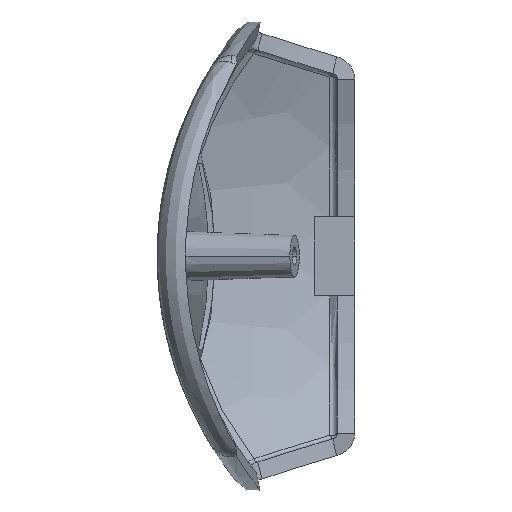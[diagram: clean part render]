
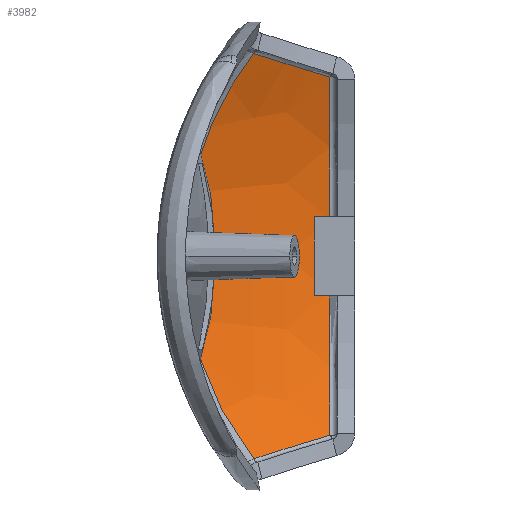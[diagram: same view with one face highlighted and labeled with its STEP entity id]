
A CAD part, left-side view. The second image highlights one B-rep face of the part: STEP entity #3982.
In plain terms, the highlighted toroidal (fillet/blend) face has major radius 7.691 mm and minor radius 33.5 mm.
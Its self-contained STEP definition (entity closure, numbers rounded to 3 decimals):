
#30 = B_SPLINE_CURVE_WITH_KNOTS ( 'NONE', 3,
 ( #2584, #790, #3661, #1520, #4020, #1866, #4360, #2241, #108, #2599, #467, #2968, #806, #3319, #1177, #3678, #1536, #4034, #1884, #4372, #2252, #126, #2617, #480, #2985, #826, #3332, #1191 ),
 .UNSPECIFIED., .F., .F.,
 ( 4, 2, 2, 2, 2, 2, 2, 2, 2, 2, 2, 2, 2, 4 ),
 ( 0., 0.002, 0.005, 0.009, 0.011, 0.012, 0.014, 0.019, 0.021, 0.024, 0.028, 0.031, 0.033, 0.038 ),
 .UNSPECIFIED. ) ;
#38 = CARTESIAN_POINT ( 'NONE',  ( 24.19, 8.7, 17.449 ) ) ;
#83 = B_SPLINE_CURVE_WITH_KNOTS ( 'NONE', 3,
 ( #4550, #296, #3156, #1004 ),
 .UNSPECIFIED., .F., .F.,
 ( 4, 4 ),
 ( 0., 0.008 ),
 .UNSPECIFIED. ) ;
#108 = CARTESIAN_POINT ( 'NONE',  ( 24.176, 13.409, -8.486 ) ) ;
#126 = CARTESIAN_POINT ( 'NONE',  ( 24.194, 12.918, 9.933 ) ) ;
#261 = EDGE_LOOP ( 'NONE', ( #993, #1170, #2462, #3586 ) ) ;
#296 = CARTESIAN_POINT ( 'NONE',  ( 27.308, 4.514, -16.12 ) ) ;
#467 = CARTESIAN_POINT ( 'NONE',  ( 24.161, 13.741, -7.351 ) ) ;
#480 = CARTESIAN_POINT ( 'NONE',  ( 24.217, 11.997, 12.106 ) ) ;
#790 = CARTESIAN_POINT ( 'NONE',  ( 24.205, 9.184, -16.825 ) ) ;
#806 = CARTESIAN_POINT ( 'NONE',  ( 24.137, 14.195, -5.44 ) ) ;
#826 = CARTESIAN_POINT ( 'NONE',  ( 24.228, 10.527, 14.887 ) ) ;
#993 = ORIENTED_EDGE ( 'NONE', *, *, #2573, .F. ) ;
#1004 = CARTESIAN_POINT ( 'NONE',  ( 24.19, 8.7, -17.449 ) ) ;
#1085 = CARTESIAN_POINT ( 'NONE',  ( -7.947, 2.156, 0. ) ) ;
#1170 = ORIENTED_EDGE ( 'NONE', *, *, #3968, .F. ) ;
#1177 = CARTESIAN_POINT ( 'NONE',  ( 24.105, 14.715, -1.581 ) ) ;
#1191 = CARTESIAN_POINT ( 'NONE',  ( 24.19, 8.7, 17.449 ) ) ;
#1322 = VERTEX_POINT ( 'NONE', #1373 ) ;
#1373 = CARTESIAN_POINT ( 'NONE',  ( 28.444, 2.156, 15.422 ) ) ;
#1391 = CARTESIAN_POINT ( 'NONE',  ( -7.947, -8.279, 0. ) ) ;
#1449 = DIRECTION ( 'NONE',  ( 0., 0., -1. ) ) ;
#1520 = CARTESIAN_POINT ( 'NONE',  ( 24.225, 10.503, -14.864 ) ) ;
#1536 = CARTESIAN_POINT ( 'NONE',  ( 24.107, 14.684, 1.552 ) ) ;
#1719 = AXIS2_PLACEMENT_3D ( 'NONE', #1085, #3584, #1449 ) ;
#1866 = CARTESIAN_POINT ( 'NONE',  ( 24.22, 12.018, -12.135 ) ) ;
#1884 = CARTESIAN_POINT ( 'NONE',  ( 24.122, 14.455, 3.903 ) ) ;
#1902 = VERTEX_POINT ( 'NONE', #4612 ) ;
#1973 = CARTESIAN_POINT ( 'NONE',  ( 27.308, 4.514, 16.12 ) ) ;
#2228 = CARTESIAN_POINT ( 'NONE',  ( 24.19, 8.7, -17.449 ) ) ;
#2241 = CARTESIAN_POINT ( 'NONE',  ( 24.18, 13.288, -8.86 ) ) ;
#2252 = CARTESIAN_POINT ( 'NONE',  ( 24.166, 13.681, 7.72 ) ) ;
#2307 = EDGE_CURVE ( 'NONE', #3850, #1322, #2438, .T. ) ;
#2437 = DIRECTION ( 'NONE',  ( 0., -1., 0. ) ) ;
#2438 = B_SPLINE_CURVE_WITH_KNOTS ( 'NONE', 3,
 ( #4443, #2679, #1973, #4462 ),
 .UNSPECIFIED., .F., .F.,
 ( 4, 4 ),
 ( 0., 0.008 ),
 .UNSPECIFIED. ) ;
#2462 = ORIENTED_EDGE ( 'NONE', *, *, #2921, .F. ) ;
#2573 = EDGE_CURVE ( 'NONE', #3925, #3850, #30, .T. ) ;
#2584 = CARTESIAN_POINT ( 'NONE',  ( 24.19, 8.7, -17.449 ) ) ;
#2599 = CARTESIAN_POINT ( 'NONE',  ( 24.166, 13.635, -7.732 ) ) ;
#2617 = CARTESIAN_POINT ( 'NONE',  ( 24.203, 12.632, 10.663 ) ) ;
#2679 = CARTESIAN_POINT ( 'NONE',  ( 25.886, 6.69, 16.803 ) ) ;
#2921 = EDGE_CURVE ( 'NONE', #1322, #1902, #3159, .T. ) ;
#2968 = CARTESIAN_POINT ( 'NONE',  ( 24.146, 14.034, -6.207 ) ) ;
#2985 = CARTESIAN_POINT ( 'NONE',  ( 24.222, 11.65, 12.815 ) ) ;
#3156 = CARTESIAN_POINT ( 'NONE',  ( 25.886, 6.69, -16.803 ) ) ;
#3159 = CIRCLE ( 'NONE', #1719, 39.524 ) ;
#3293 = AXIS2_PLACEMENT_3D ( 'NONE', #1391, #2437, #3899 ) ;
#3319 = CARTESIAN_POINT ( 'NONE',  ( 24.114, 14.584, -3.133 ) ) ;
#3332 = CARTESIAN_POINT ( 'NONE',  ( 24.22, 9.668, 16.201 ) ) ;
#3584 = DIRECTION ( 'NONE',  ( 0., 1., 0. ) ) ;
#3586 = ORIENTED_EDGE ( 'NONE', *, *, #2307, .F. ) ;
#3661 = CARTESIAN_POINT ( 'NONE',  ( 24.215, 9.643, -16.181 ) ) ;
#3678 = CARTESIAN_POINT ( 'NONE',  ( 24.105, 14.717, 0.765 ) ) ;
#3823 = TOROIDAL_SURFACE ( 'NONE', #3293, 7.691, 33.5 ) ;
#3850 = VERTEX_POINT ( 'NONE', #38 ) ;
#3899 = DIRECTION ( 'NONE',  ( 0., 0., -1. ) ) ;
#3925 = VERTEX_POINT ( 'NONE', #2228 ) ;
#3968 = EDGE_CURVE ( 'NONE', #1902, #3925, #83, .T. ) ;
#3982 = ADVANCED_FACE ( 'NONE', ( #4529 ), #3823, .F. ) ;
#4020 = CARTESIAN_POINT ( 'NONE',  ( 24.226, 10.903, -14.192 ) ) ;
#4034 = CARTESIAN_POINT ( 'NONE',  ( 24.115, 14.553, 3.125 ) ) ;
#4360 = CARTESIAN_POINT ( 'NONE',  ( 24.204, 12.648, -10.71 ) ) ;
#4372 = CARTESIAN_POINT ( 'NONE',  ( 24.145, 14.065, 6.212 ) ) ;
#4443 = CARTESIAN_POINT ( 'NONE',  ( 24.19, 8.7, 17.449 ) ) ;
#4462 = CARTESIAN_POINT ( 'NONE',  ( 28.444, 2.156, 15.422 ) ) ;
#4529 = FACE_OUTER_BOUND ( 'NONE', #261, .T. ) ;
#4550 = CARTESIAN_POINT ( 'NONE',  ( 28.444, 2.156, -15.422 ) ) ;
#4612 = CARTESIAN_POINT ( 'NONE',  ( 28.444, 2.156, -15.422 ) ) ;
